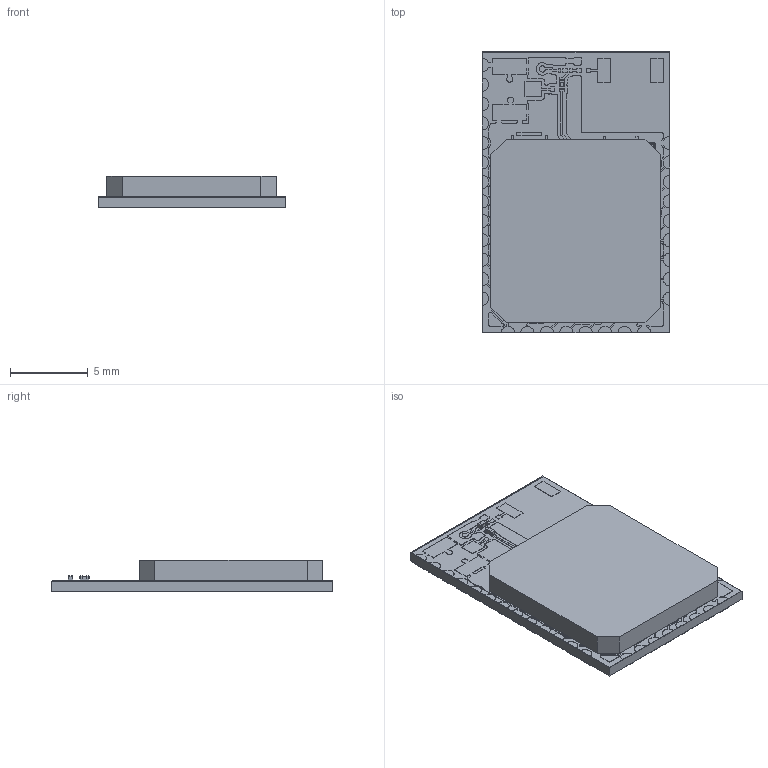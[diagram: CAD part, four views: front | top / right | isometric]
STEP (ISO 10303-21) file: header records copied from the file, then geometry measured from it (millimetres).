
FILE_DESCRIPTION(/* description */ (''),/* implementation_level */ '2;1');
FILE_NAME(/* name */ 'C:/Users/tohakkil/Documents/STEP models/Final module STEP models/BLE112-N.step',/* time_stamp */ '2019-09-24T14:27:42+03:00',/* author */ (''),/* organization */ (''),/* preprocessor_version */ 'ST-DEVELOPER v18',/* originating_system */ 'Autodesk Translation Framework v8.6.0.1094',/* authorisation */ '');
FILE_SCHEMA (('AUTOMOTIVE_DESIGN { 1 0 10303 214 3 1 1 }'));
Products named in the file (155): (Unsaved); DesignRootModel; uid__112; uid__111; uid__110; uid__109; uid__108; uid__107; uid__106; uid__105; uid__104; uid__103; uid__102; uid__101; uid__100; uid__99; uid__98; uid__97; uid__96; uid__95; uid__94; uid__93; uid__92; uid__91; uid__90; uid__89; uid__88; uid__87; uid__86; uid__85; uid__84; uid__83; uid__82; uid__81; uid__80; uid__79; uid__78; uid__77; uid__76; uid__75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
Assembly tree (164 placements, depth 5):
  (Unsaved)
    DesignRootModel
      uid__112
      uid__111
      uid__110
      uid__109
      uid__108
      uid__107
      uid__106
      uid__105
      uid__104
      uid__103
      uid__102
      uid__101
      uid__100
      uid__99
      uid__98
      uid__97
      uid__96
      uid__95
      uid__94
      uid__93
      uid__92
      uid__91
      uid__90
      uid__89
      uid__88
      uid__87
      uid__86
      uid__85
      uid__84
      uid__83
      uid__82
      uid__81
      uid__80
      uid__79
      uid__78
      uid__77
      uid__76
      uid__75
      uid__74
      uid__73
      uid__72
      uid__71
      uid__70
      uid__67
      uid__66
      uid__65
      uid__64
      uid__63
      uid__62
      uid__61
      uid__60
      uid__59
      uid__58
      uid__57
      uid__56
      uid__55
      uid__54
      uid__53
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Bounding box: 12.05 x 18.1 x 2 mm (x, y, z)
Volume: 319.2 mm3; surface area: 1943.8 mm2
Topology: 139 solids, 139 shells, 2652 faces, 7056 edges, 4682 vertices
Faces by surface type: plane 1625, cylinder 995, sphere 32
Full cylindrical faces by diameter (mm): 0.4 x14, 0.447 x1
Entity records: 82737 total; most frequent: DIRECTION 14166, CARTESIAN_POINT 13933, ORIENTED_EDGE 13368, EDGE_CURVE 6684, LINE 4784, VECTOR 4784, AXIS2_PLACEMENT_3D 4691, VERTEX_POINT 4458
